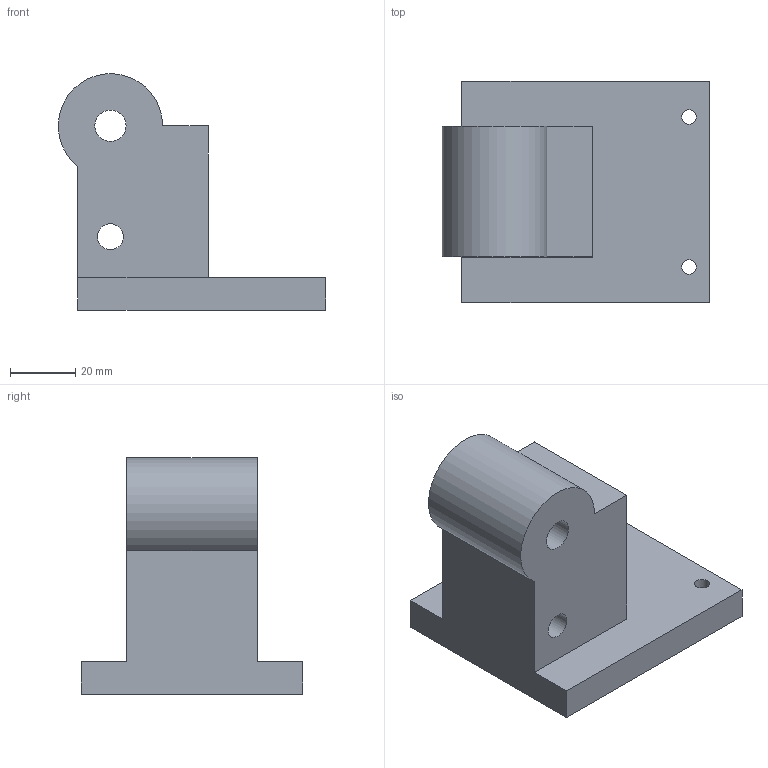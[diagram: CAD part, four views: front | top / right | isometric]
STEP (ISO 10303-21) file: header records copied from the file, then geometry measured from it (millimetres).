
FILE_DESCRIPTION(('Open CASCADE Model'),'2;1');
FILE_NAME('Open CASCADE Shape Model','2026-10-18T02:27:58',('Author'),( 'Open CASCADE'),'Open CASCADE STEP processor 7.9','Open CASCADE 7.9' ,'Unknown');
FILE_SCHEMA(('AUTOMOTIVE_DESIGN { 1 0 10303 214 1 1 1 1 }'));
Length unit declared in the file: millimetre
Products named in the file (1): Open CASCADE STEP translator 7.9 10
Bounding box: 81.98 x 68 x 72.51 mm (x, y, z)
Volume: 138698.6 mm3; surface area: 25106.4 mm2
Topology: 1 solids, 1 shells, 23 faces, 51 edges, 34 vertices
Faces by surface type: plane 14, cylinder 9
Full cylindrical faces by diameter (mm): 4 x2, 4.5 x2, 5.6 x2, 7.94 x1, 9.6 x1
Entity records: 1362 total; most frequent: CARTESIAN_POINT 289, DIRECTION 201, LINE 111, VECTOR 111, ORIENTED_EDGE 102, PCURVE 102, DEFINITIONAL_REPRESENTATION 102, EDGE_CURVE 51
